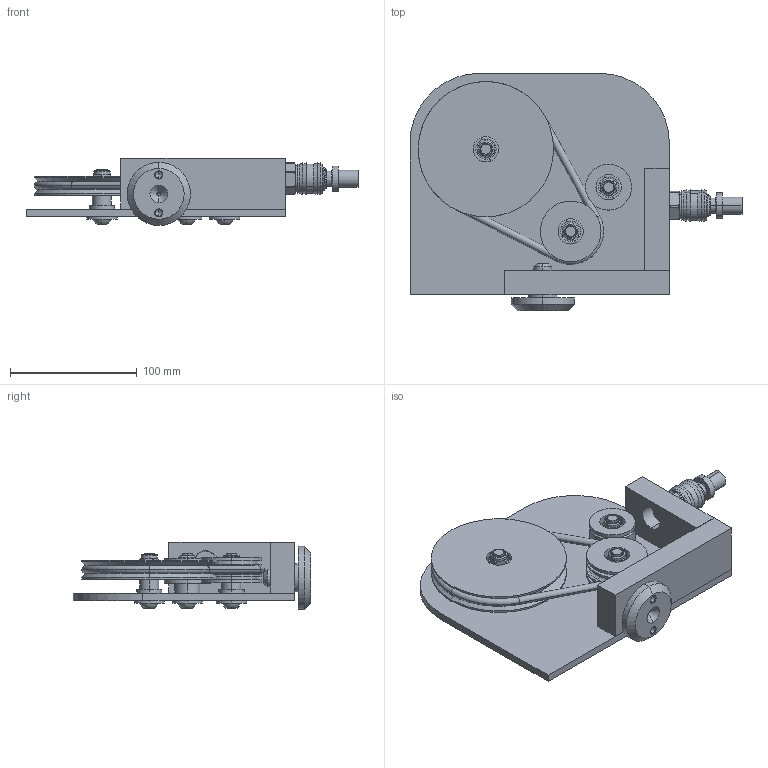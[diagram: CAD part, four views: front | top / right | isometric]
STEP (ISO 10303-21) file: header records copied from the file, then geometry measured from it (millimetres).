
FILE_DESCRIPTION (( 'STEP AP214' ), '1' );
FILE_NAME ('0000003213.STEP', '2015-11-30T10:27:57', ( 'HP' ), ( 'Hewlett-Packard Company' ), 'SwSTEP 2.0', 'SolidWorks 2014', '' );
FILE_SCHEMA (( 'AUTOMOTIVE_DESIGN' ));
Length unit declared in the file: millimetre
Products named in the file (16): 0000003214; 0000003207; slotted countersunk flat head screw_iso_ISO 2009 - M5 x 20 --- 20N; socket button head screw_iso_ISO 7380 - M8 x 12 --- 12N; plain washer large_din_Washer DIN 9021 - 8.4; prevailing torque nut thin insert_din_DIN EN ISO 10511 - M8 - N; plain washer grade a_din_Washer DIN 125 - A 8.4; circlip for bores normal_din_Circlip DIN 472 - 26 x 1.2; radial ball bearing_68_din_DIN 625 - 6000 - 8,SI,NC,8_68; 0000003209; 0000003210; 0000003211; 0000003212; 0000003213; Teil7^0000003213; 0000003208
Assembly tree (30 placements, depth 2):
  0000003213
    0000003212
    0000003211
    0000003210
    0000003209
    radial ball bearing_68_din_DIN 625 - 6000 - 8,SI,NC,8_68  x3
    circlip for bores normal_din_Circlip DIN 472 - 26 x 1.2  x3
    plain washer grade a_din_Washer DIN 125 - A 8.4  x3
    prevailing torque nut thin insert_din_DIN EN ISO 10511 - M8 - N  x3
    plain washer large_din_Washer DIN 9021 - 8.4  x3
    socket button head screw_iso_ISO 7380 - M8 x 12 --- 12N  x3
    slotted countersunk flat head screw_iso_ISO 2009 - M5 x 20 --- 20N  x4
    0000003207
    0000003214
    0000003208
    Teil7^0000003213
Bounding box: 262.45 x 187.6 x 53 mm (x, y, z)
Volume: 588471.9 mm3; surface area: 195700.4 mm2
Topology: 37 solids, 37 shells, 816 faces, 1788 edges, 1088 vertices
Faces by surface type: cylinder 346, plane 228, cone 144, torus 90, sphere 8
Entity records: 16476 total; most frequent: CARTESIAN_POINT 2886, DIRECTION 2788, ORIENTED_EDGE 2218, AXIS2_PLACEMENT_3D 1195, EDGE_CURVE 1109, VERTEX_POINT 687, CIRCLE 638, EDGE_LOOP 628
